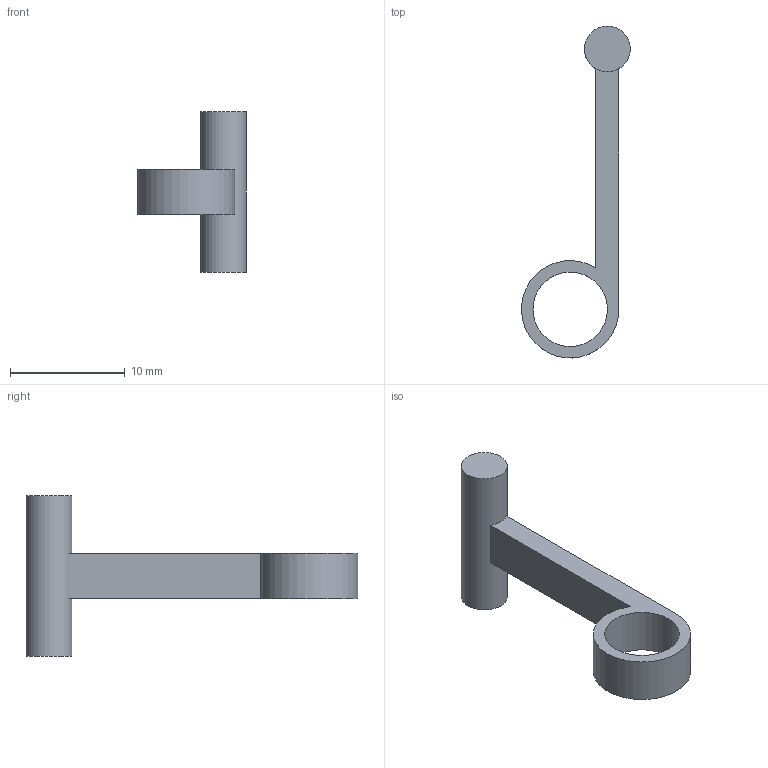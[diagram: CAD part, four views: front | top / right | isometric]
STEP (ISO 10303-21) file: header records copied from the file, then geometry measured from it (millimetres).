
FILE_DESCRIPTION(/* description */ (''),/* implementation_level */ '2;1');
FILE_NAME(/* name */ 'D:\STEP files\latch.stp',/* time_stamp */ '2020-08-13T23:48:38+02:00',/* author */ ('Vít Budina'),/* organization */ (''),/* preprocessor_version */ 'ST-DEVELOPER v18',/* originating_system */ 'Autodesk Inventor 2020',/* authorisation */ '');
FILE_SCHEMA (('AUTOMOTIVE_DESIGN { 1 0 10303 214 3 1 1 }'));
Length unit declared in the file: millimetre
Products named in the file (1): latch
Bounding box: 9.49 x 28.96 x 14 mm (x, y, z)
Volume: 416.2 mm3; surface area: 637.6 mm2
Topology: 1 solids, 1 shells, 9 faces, 20 edges, 14 vertices
Faces by surface type: plane 6, cylinder 3
Full cylindrical faces by diameter (mm): 4 x1, 6.5 x1
Entity records: 305 total; most frequent: DIRECTION 50, CARTESIAN_POINT 44, ORIENTED_EDGE 40, EDGE_CURVE 20, AXIS2_PLACEMENT_3D 20, VERTEX_POINT 14, EDGE_LOOP 12, LINE 10
